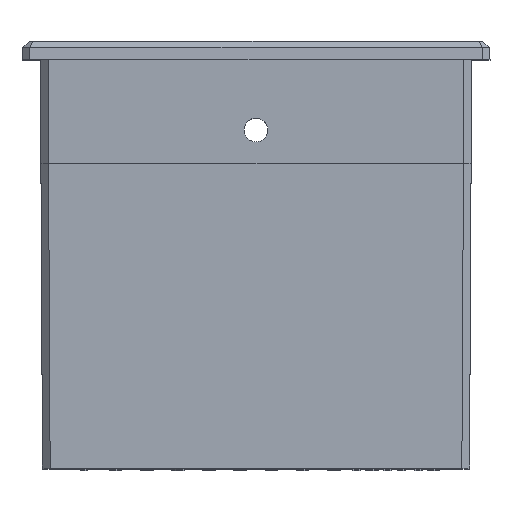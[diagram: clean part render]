
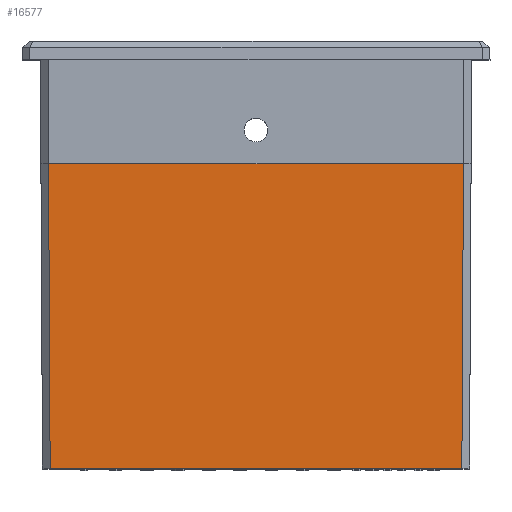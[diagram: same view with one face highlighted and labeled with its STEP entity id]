
A CAD part, top view. The second image highlights one B-rep face of the part: STEP entity #16577.
In plain terms, the highlighted planar face has unit normal (0, -0.005, 1).
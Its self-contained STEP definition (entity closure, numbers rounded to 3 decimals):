
#1618 = EDGE_CURVE ( 'NONE', #14320, #7092, #3193, .T. ) ;
#2724 = ORIENTED_EDGE ( 'NONE', *, *, #1618, .T. ) ;
#3193 = LINE ( 'NONE', #23707, #11249 ) ;
#4459 = DIRECTION ( 'NONE',  ( 0.005, -1., -0.005 ) ) ;
#5255 = DIRECTION ( 'NONE',  ( 0., -1., -0.005 ) ) ;
#6178 = VECTOR ( 'NONE', #4459, 1000. ) ;
#6249 = ORIENTED_EDGE ( 'NONE', *, *, #12325, .T. ) ;
#7007 = DIRECTION ( 'NONE',  ( 0., -0.005, 1. ) ) ;
#7092 = VERTEX_POINT ( 'NONE', #21442 ) ;
#7287 = LINE ( 'NONE', #8820, #24028 ) ;
#7637 = EDGE_CURVE ( 'NONE', #19793, #21524, #7660, .T. ) ;
#7659 = CARTESIAN_POINT ( 'NONE',  ( -33.65, -66.9, 13.9 ) ) ;
#7660 = LINE ( 'NONE', #23518, #6178 ) ;
#7722 = FACE_OUTER_BOUND ( 'NONE', #24506, .T. ) ;
#8058 = AXIS2_PLACEMENT_3D ( 'NONE', #16875, #7007, #5255 ) ;
#8820 = CARTESIAN_POINT ( 'NONE',  ( 0., -66.9, 13.9 ) ) ;
#8916 = ORIENTED_EDGE ( 'NONE', *, *, #10900, .F. ) ;
#9355 = CARTESIAN_POINT ( 'NONE',  ( 33.65, -66.9, 13.9 ) ) ;
#10232 = DIRECTION ( 'NONE',  ( 0.005, 1., 0.005 ) ) ;
#10859 = PLANE ( 'NONE',  #8058 ) ;
#10900 = EDGE_CURVE ( 'NONE', #19793, #7092, #10920, .T. ) ;
#10920 = LINE ( 'NONE', #17860, #13598 ) ;
#11249 = VECTOR ( 'NONE', #10232, 1000. ) ;
#11848 = CARTESIAN_POINT ( 'NONE',  ( -33.911, -17., 14.161 ) ) ;
#12325 = EDGE_CURVE ( 'NONE', #21524, #14320, #7287, .T. ) ;
#13598 = VECTOR ( 'NONE', #21392, 1000. ) ;
#14320 = VERTEX_POINT ( 'NONE', #9355 ) ;
#16577 = ADVANCED_FACE ( 'NONE', ( #7722 ), #10859, .T. ) ;
#16752 = DIRECTION ( 'NONE',  ( 1., 0., 0. ) ) ;
#16875 = CARTESIAN_POINT ( 'NONE',  ( 35.25, 0., 14.25 ) ) ;
#17860 = CARTESIAN_POINT ( 'NONE',  ( 35.25, -17., 14.161 ) ) ;
#19793 = VERTEX_POINT ( 'NONE', #11848 ) ;
#19852 = ORIENTED_EDGE ( 'NONE', *, *, #7637, .T. ) ;
#21392 = DIRECTION ( 'NONE',  ( 1., 0., 0. ) ) ;
#21442 = CARTESIAN_POINT ( 'NONE',  ( 33.911, -17., 14.161 ) ) ;
#21524 = VERTEX_POINT ( 'NONE', #7659 ) ;
#23518 = CARTESIAN_POINT ( 'NONE',  ( -33.998, -0.363, 14.248 ) ) ;
#23707 = CARTESIAN_POINT ( 'NONE',  ( 34., 0.007, 14.25 ) ) ;
#24028 = VECTOR ( 'NONE', #16752, 1000. ) ;
#24506 = EDGE_LOOP ( 'NONE', ( #8916, #19852, #6249, #2724 ) ) ;
